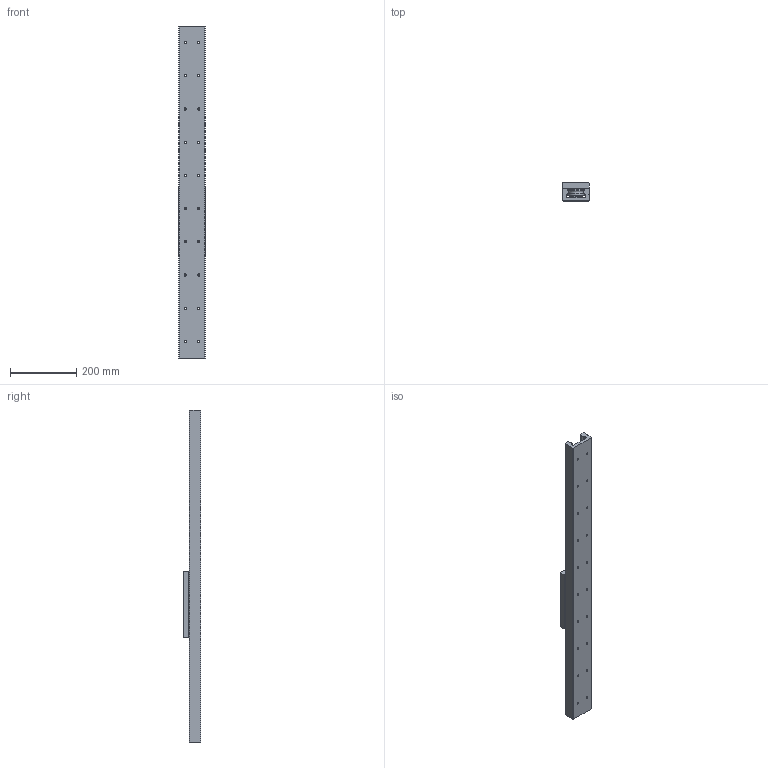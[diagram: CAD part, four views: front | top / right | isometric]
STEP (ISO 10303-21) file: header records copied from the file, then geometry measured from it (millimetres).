
FILE_DESCRIPTION (( 'STEP AP214' ), '1' );
FILE_NAME ('LSI8054.STEP', '2023-10-26T23:18:45', ( '' ), ( '' ), 'SwSTEP 2.0', 'SolidWorks 2019', '' );
FILE_SCHEMA (( 'AUTOMOTIVE_DESIGN' ));
Length unit declared in the file: millimetre
Products named in the file (3): LSI8054; LSI8054レール; LSI8054キャリッジ
Assembly tree (2 placements, depth 2):
  LSI8054
    LSI8054レール
    LSI8054キャリッジ
Bounding box: 80 x 54 x 1000 mm (x, y, z)
Volume: 1887715.8 mm3; surface area: 372267.5 mm2
Topology: 2 solids, 2 shells, 248 faces, 542 edges, 346 vertices
Faces by surface type: plane 100, cylinder 92, cone 52, torus 4
Full cylindrical faces by diameter (mm): 6.6 x20, 6.8 x6, 11 x20, 12 x4, 19.5 x4, 24 x4, 30 x4, 38.234 x4, 47 x8
Entity records: 6910 total; most frequent: CARTESIAN_POINT 1575, DIRECTION 1092, ORIENTED_EDGE 892, AXIS2_PLACEMENT_3D 489, EDGE_CURVE 446, EDGE_LOOP 430, VERTEX_POINT 332, FACE_OUTER_BOUND 326
